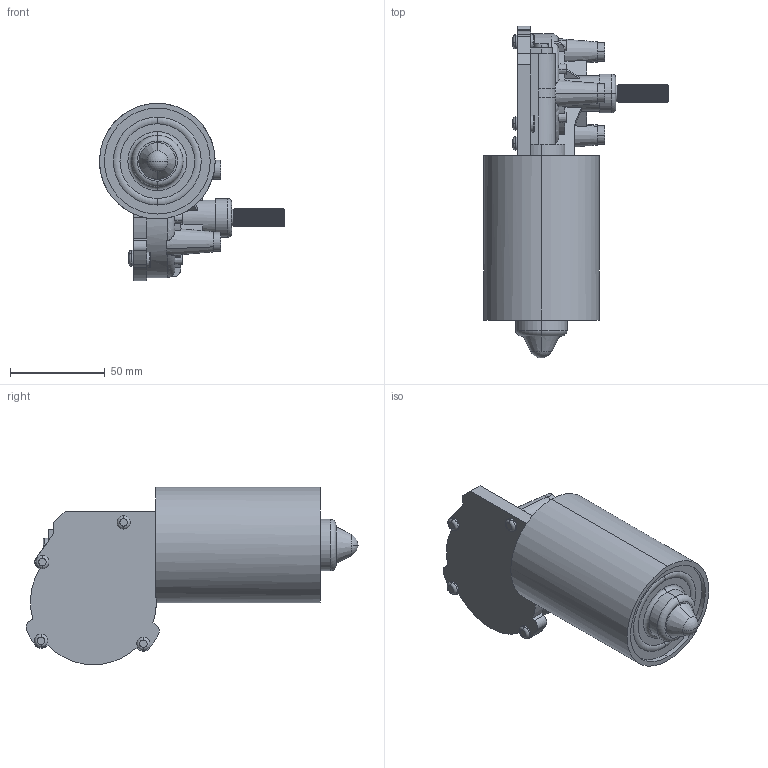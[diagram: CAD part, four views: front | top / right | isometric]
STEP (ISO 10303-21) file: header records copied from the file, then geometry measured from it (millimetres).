
FILE_DESCRIPTION (( 'STEP AP203' ), '1' );
FILE_NAME ('KTC POWER - 103 - 55W.STEP', '2026-07-14T11:02:46', ( '' ), ( '' ), 'SwSTEP 2.0', 'SolidWorks 2019', '' );
FILE_SCHEMA (( 'CONFIG_CONTROL_DESIGN' ));
Length unit declared in the file: millimetre
Products named in the file (1): KTC POWER - 103 - 55W
Bounding box: 97.9 x 175.66 x 93.9 mm (x, y, z)
Volume: 368868.5 mm3; surface area: 46546 mm2
Topology: 1 solids, 1 shells, 732 faces, 1949 edges, 1256 vertices
Faces by surface type: plane 378, cylinder 131, cone 119, bspline 68, torus 34, sphere 2
Entity records: 27453 total; most frequent: CARTESIAN_POINT 9749, ORIENTED_EDGE 3890, DIRECTION 3435, EDGE_CURVE 1945, AXIS2_PLACEMENT_3D 1258, VERTEX_POINT 1256, LINE 919, VECTOR 919
